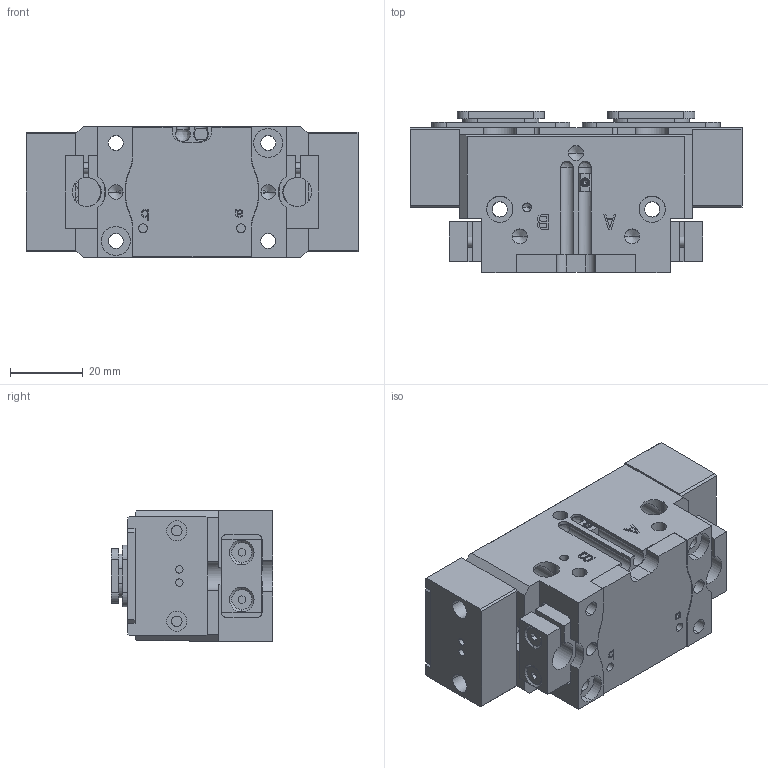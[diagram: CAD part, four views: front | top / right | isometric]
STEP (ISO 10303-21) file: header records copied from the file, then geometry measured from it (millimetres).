
FILE_DESCRIPTION (( 'STEP AP214' ), '1' );
FILE_NAME ('FPT64A-1-SD.STEP', '2021-09-18T03:53:41', ( 'DEEP' ), ( 'Microsoft' ), 'SwSTEP 2.0', 'SolidWorks 2016', '' );
FILE_SCHEMA (( 'AUTOMOTIVE_DESIGN' ));
Length unit declared in the file: millimetre
Products named in the file (27): FPT64A-1-SD-003; FPT64A-1-SD-004; FPT64A-1-003; FPT64A-1-SD-001; FPT64A-1-005; FPT64A-1-004; FPT64A-1-SD-002; FPT64A-1-001; FPT64A-1-002; 3瘍隅弇杶; FPT64A-1-SD; FPT64A-1-01-sd
Assembly tree (16 placements, depth 3):
  FPT64A-1-SD-004
  FPT64A-1-SD-003
  FPT64A-1-SD-001
  FPT64A-1-SD-001
  FPT64A-1-SD-002
Bounding box: 91.5 x 44.6 x 36 mm (x, y, z)
Volume: 91424.6 mm3; surface area: 46824.5 mm2
Topology: 15 solids, 15 shells, 902 faces, 2390 edges, 1523 vertices
Faces by surface type: plane 491, cylinder 289, cone 116, bspline 6
Entity records: 25400 total; most frequent: CARTESIAN_POINT 4405, DIRECTION 3820, ORIENTED_EDGE 3776, EDGE_CURVE 1888, VECTOR 1316, LINE 1316, AXIS2_PLACEMENT_3D 1252, VERTEX_POINT 1233
